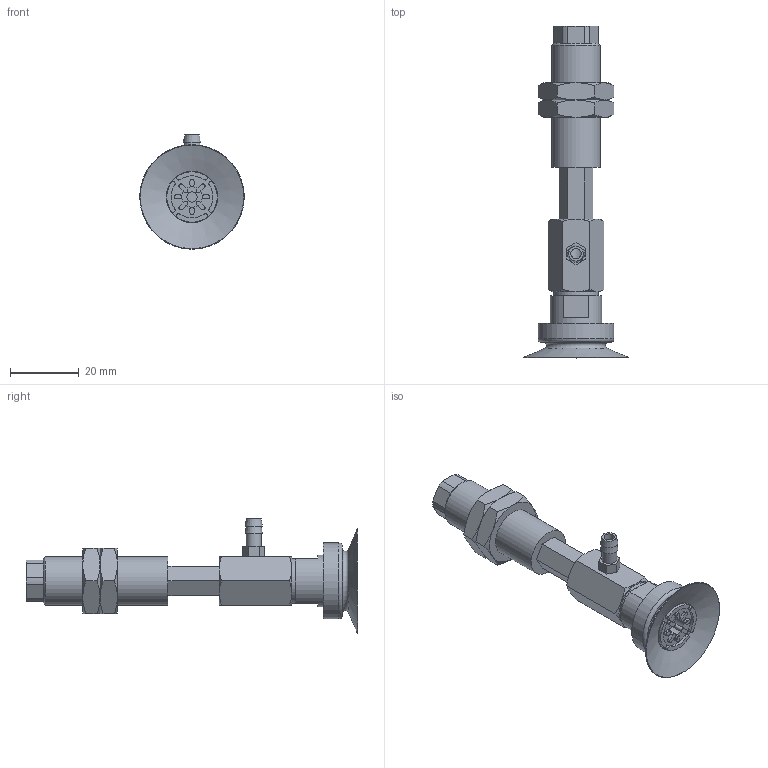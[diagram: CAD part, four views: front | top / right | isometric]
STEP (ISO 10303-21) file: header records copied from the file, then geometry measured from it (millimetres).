
FILE_DESCRIPTION(('STEP AP203'),'1');
FILE_NAME('-T.stp','2025-03-13T08:31:10',(' '),(' '),'Spatial InterOp 3D',' ',' ');
FILE_SCHEMA(('CONFIG_CONTROL_DESIGN'));
Length unit declared in the file: millimetre
Products named in the file (7): BNABPAYH-30-15-※-T; CONNECTOR-30-15-PA; Nut-25-S; NAPAYH-30-15--F; NAPAYH-30-15--M; BPAG-30-※; T
Assembly tree (7 placements, depth 2):
  BNABPAYH-30-15-※-T
    CONNECTOR-30-15-PA
    Nut-25-S  x2
    NAPAYH-30-15--F
    NAPAYH-30-15--M
    BPAG-30-※
    T
Bounding box: 30.3 x 96.2 x 33.15 mm (x, y, z)
Volume: 16066.1 mm3; surface area: 12229 mm2
Topology: 7 solids, 7 shells, 226 faces, 519 edges, 328 vertices
Faces by surface type: plane 111, cylinder 59, cone 54, torus 2
Full cylindrical faces by diameter (mm): 3 x3, 4.134 x2, 4.3 x1, 4.6 x1, 4.917 x1, 5 x2, 6 x1, 12.917 x2, 13 x1, 14 x1, 15 x1, 22 x1
Entity records: 6250 total; most frequent: CARTESIAN_POINT 1338, DIRECTION 978, ORIENTED_EDGE 872, EDGE_CURVE 436, AXIS2_PLACEMENT_3D 382, VERTEX_POINT 298, EDGE_LOOP 268, FACE_OUTER_BOUND 221
